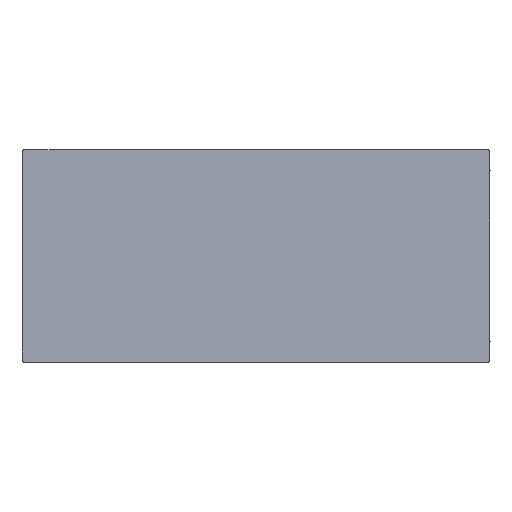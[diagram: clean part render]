
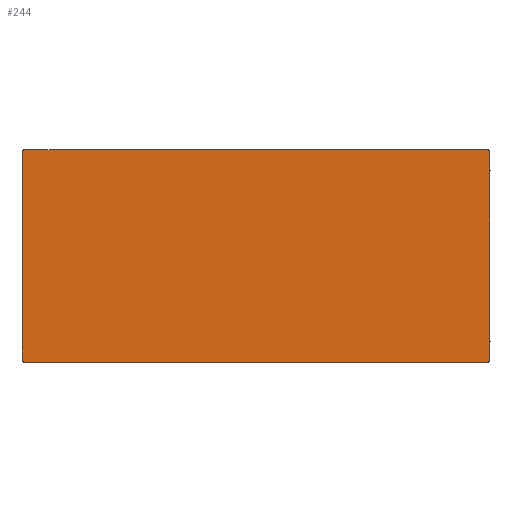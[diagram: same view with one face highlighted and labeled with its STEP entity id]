
A CAD part, top view. The second image highlights one B-rep face of the part: STEP entity #244.
In plain terms, the highlighted planar face has unit normal (0, 0, 1).
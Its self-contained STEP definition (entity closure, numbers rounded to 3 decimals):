
#244=ADVANCED_FACE($,(#412),#2183,.T.);
#412=FACE_OUTER_BOUND($,#612,.T.);
#612=EDGE_LOOP($,(#1396,#1397));
#1396=ORIENTED_EDGE($,*,*,#1792,.T.);
#1397=ORIENTED_EDGE($,*,*,#1795,.T.);
#1792=EDGE_CURVE($,#2029,#2031,#2575,.T.);
#1795=EDGE_CURVE($,#2031,#2029,#2577,.T.);
#2029=VERTEX_POINT($,#5383);
#2031=VERTEX_POINT($,#5385);
#2183=PLANE($,#2739);
#2575=(
BOUNDED_CURVE()
B_SPLINE_CURVE(2,(#5315,#5316,#5317,#5318,#5319,#5320,#5321,#5322,#5323),
.UNSPECIFIED.,.F.,.F.)
B_SPLINE_CURVE_WITH_KNOTS((3,2,2,2,3),(6385.,6408.562,8578.562,
8602.124,9572.124),.UNSPECIFIED.)
CURVE()
GEOMETRIC_REPRESENTATION_ITEM()
RATIONAL_B_SPLINE_CURVE((1.,0.707,1.,1.,1.,0.707,
1.,1.,1.))
REPRESENTATION_ITEM($)
);
#2577=(
BOUNDED_CURVE()
B_SPLINE_CURVE(2,(#5335,#5336,#5337,#5338,#5339,#5340,#5341,#5342,#5343),
.UNSPECIFIED.,.F.,.F.)
B_SPLINE_CURVE_WITH_KNOTS((3,2,2,2,3),(9572.124,9595.686,
11765.686,11789.248,12759.248),.UNSPECIFIED.)
CURVE()
GEOMETRIC_REPRESENTATION_ITEM()
RATIONAL_B_SPLINE_CURVE((1.,0.707,1.,1.,1.,0.707,
1.,1.,1.))
REPRESENTATION_ITEM($)
);
#2739=AXIS2_PLACEMENT_3D($,#5363,#2816,$);
#2816=DIRECTION($,(0.,0.,1.));
#5315=CARTESIAN_POINT($,(0.,15.,742.));
#5316=CARTESIAN_POINT($,(0.,0.,742.));
#5317=CARTESIAN_POINT($,(15.,0.,742.));
#5318=CARTESIAN_POINT($,(1100.,0.,742.));
#5319=CARTESIAN_POINT($,(2185.,0.,742.));
#5320=CARTESIAN_POINT($,(2200.,0.,742.));
#5321=CARTESIAN_POINT($,(2200.,15.,742.));
#5322=CARTESIAN_POINT($,(2200.,500.,742.));
#5323=CARTESIAN_POINT($,(2200.,985.,742.));
#5335=CARTESIAN_POINT($,(2200.,985.,742.));
#5336=CARTESIAN_POINT($,(2200.,1000.,742.));
#5337=CARTESIAN_POINT($,(2185.,1000.,742.));
#5338=CARTESIAN_POINT($,(1100.,1000.,742.));
#5339=CARTESIAN_POINT($,(15.,1000.,742.));
#5340=CARTESIAN_POINT($,(0.,1000.,742.));
#5341=CARTESIAN_POINT($,(0.,985.,742.));
#5342=CARTESIAN_POINT($,(0.,500.,742.));
#5343=CARTESIAN_POINT($,(0.,15.,742.));
#5363=CARTESIAN_POINT($,(0.,0.,742.));
#5383=CARTESIAN_POINT($,(0.,15.,742.));
#5385=CARTESIAN_POINT($,(2200.,985.,742.));
